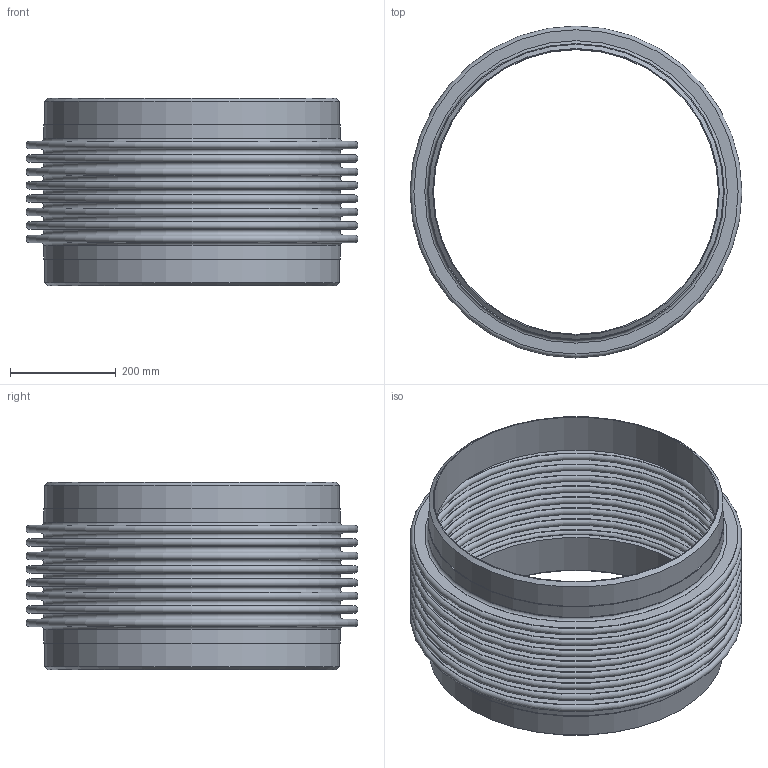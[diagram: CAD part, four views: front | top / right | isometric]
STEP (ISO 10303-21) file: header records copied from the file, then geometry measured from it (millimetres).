
FILE_DESCRIPTION(/* description */ (''),/* implementation_level */ '2;1');
FILE_NAME(/* name */ 'PIPE- 22- 150 PSIG ASSEMBLY PART.stp',/* time_stamp */ '2026-07-24T15:39:16-05:00',/* author */ ('jorgef'),/* organization */ (''),/* preprocessor_version */ 'ST-DEVELOPER v20.1',/* originating_system */ 'Autodesk Inventor 2026',/* authorisation */ '');
FILE_SCHEMA (('AUTOMOTIVE_DESIGN { 1 0 10303 214 3 1 1 }'));
Length unit declared in the file: inch
Products named in the file (1): PIPE- 22- 150 PSIG ASSEMBLY PART
Bounding box: 628.65 x 628.65 x 355.6 mm (x, y, z)
Volume: 4405962.2 mm3; surface area: 3009644.6 mm2
Topology: 1 solids, 1 shells, 80 faces, 126 edges, 84 vertices
Faces by surface type: plane 38, torus 34, cylinder 6, cone 2
Full cylindrical faces by diameter (mm): 539.75 x2, 558.8 x2, 561.848 x2
Entity records: 2035 total; most frequent: DIRECTION 406, CARTESIAN_POINT 291, ORIENTED_EDGE 252, AXIS2_PLACEMENT_3D 199, EDGE_CURVE 126, EDGE_LOOP 118, CIRCLE 118, VERTEX_POINT 84
